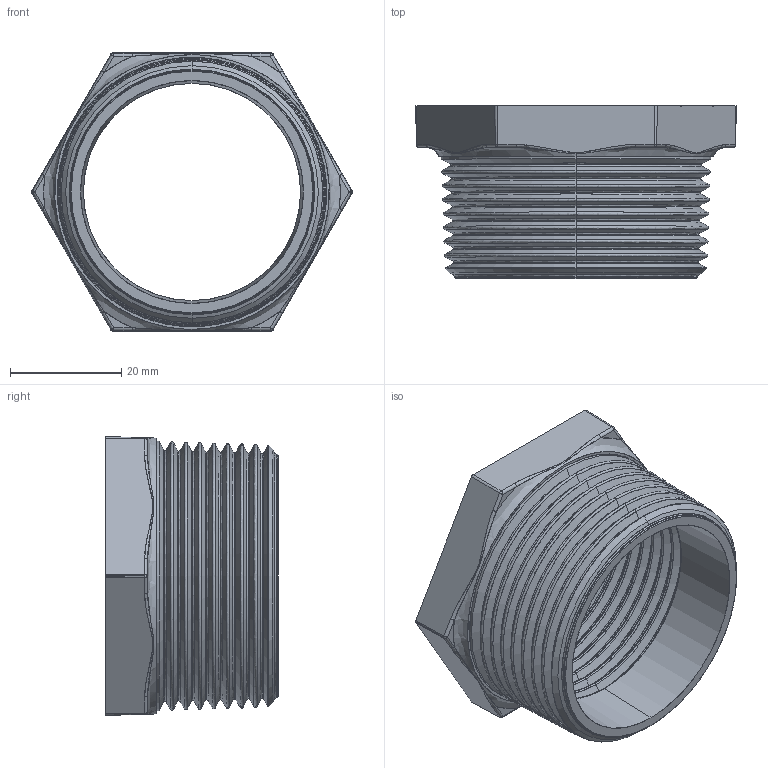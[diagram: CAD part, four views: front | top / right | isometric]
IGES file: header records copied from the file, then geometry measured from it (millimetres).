
Start section: SolidWorks IGES file using analytic representation for surfaces
Global section: file name: C:\Users\Joel Rosa\Desktop\Tubulação\12-01-OK\12-01-042.IGS; native system: SolidWorks 2011; preprocessor: SolidWorks 2011; author: Joel Rosa; date: 121203.200426; units: millimetre
Bounding box: 57.58 x 31 x 50 mm (x, y, z)
Surface area: 13882.8 mm2 (no closed solid volume)
Topology: 0 solids, 0 shells, 371 faces, 2770 edges, 2770 vertices
Faces by surface type: bspline 266, revolution 105
